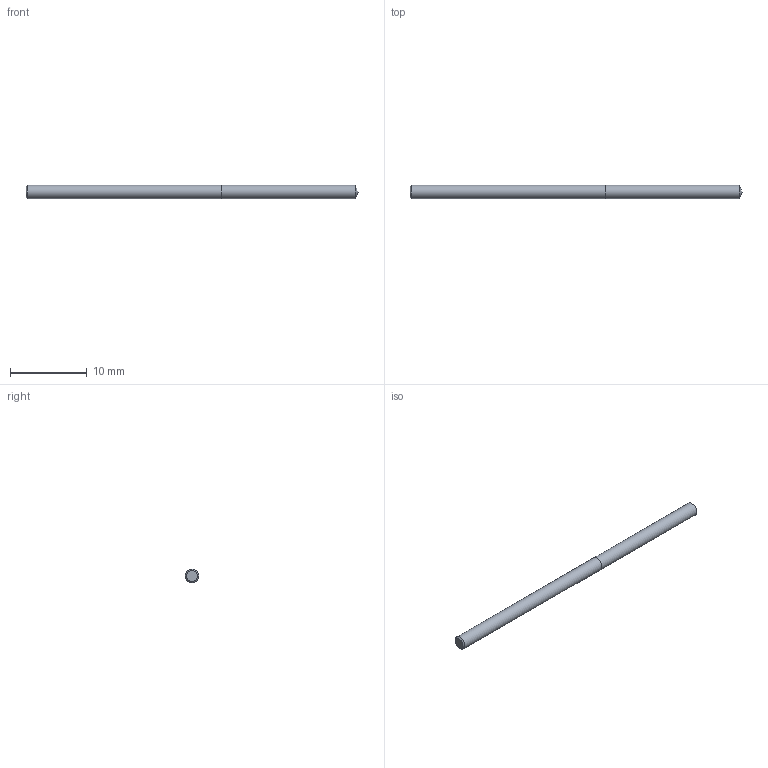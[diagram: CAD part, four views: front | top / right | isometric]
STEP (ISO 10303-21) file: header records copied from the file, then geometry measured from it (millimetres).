
FILE_DESCRIPTION (( 'STEP AP214' ), '1' );
FILE_NAME ('03-2392.STEP', '2022-06-03T07:09:18', ( 'USER' ), ( '' ), 'SwSTEP 2.0', 'SolidWorks 2018', '' );
FILE_SCHEMA (( 'AUTOMOTIVE_DESIGN' ));
Length unit declared in the file: inch
Products named in the file (1): 03-2392
Bounding box: 43.23 x 1.78 x 1.78 mm (x, y, z)
Volume: 106.6 mm3; surface area: 248.9 mm2
Topology: 2 solids, 2 shells, 7 faces, 11 edges, 7 vertices
Faces by surface type: plane 3, cylinder 2, cone 2
Full cylindrical faces by diameter (mm): 1.778 x2
Entity records: 214 total; most frequent: DIRECTION 26, CARTESIAN_POINT 18, AXIS2_PLACEMENT_3D 13, ORIENTED_EDGE 10, EDGE_LOOP 10, FACE_OUTER_BOUND 9, DIMENSIONAL_EXPONENTS 7, LENGTH_MEASURE_WITH_UNIT 7
